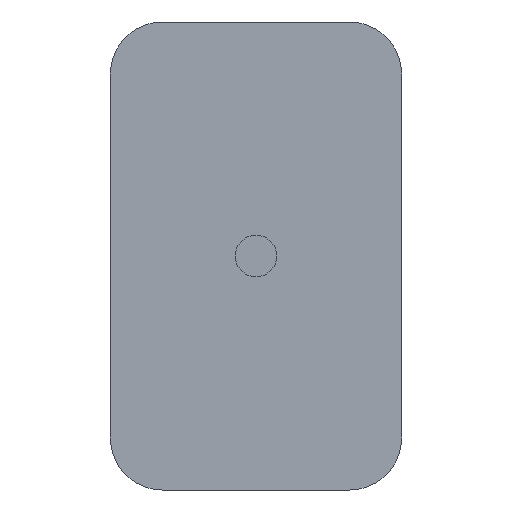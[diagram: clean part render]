
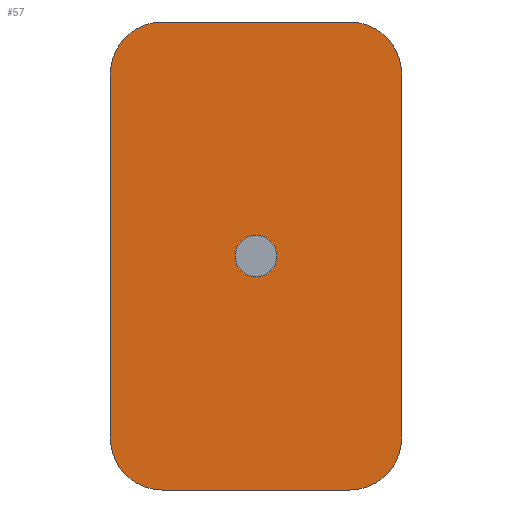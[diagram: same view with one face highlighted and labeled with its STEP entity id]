
A CAD part, left-side view. The second image highlights one B-rep face of the part: STEP entity #57.
In plain terms, the highlighted planar face has unit normal (-1, 0, 0).
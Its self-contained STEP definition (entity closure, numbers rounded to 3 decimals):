
#6 = CARTESIAN_POINT ( 'NONE',  ( -48.5, 5., -17.5 ) ) ;
#21 = DIRECTION ( 'NONE',  ( 0., 0., -1. ) ) ;
#39 = ORIENTED_EDGE ( 'NONE', *, *, #98, .T. ) ;
#42 = VERTEX_POINT ( 'NONE', #463 ) ;
#45 = EDGE_CURVE ( 'NONE', #449, #502, #160, .T. ) ;
#48 = DIRECTION ( 'NONE',  ( -1., 0., 0. ) ) ;
#57 = ADVANCED_FACE ( 'NONE', ( #403, #479 ), #234, .F. ) ;
#65 = EDGE_CURVE ( 'NONE', #141, #199, #255, .T. ) ;
#67 = VECTOR ( 'NONE', #333, 1000. ) ;
#69 = EDGE_CURVE ( 'NONE', #42, #449, #180, .T. ) ;
#82 = ORIENTED_EDGE ( 'NONE', *, *, #271, .T. ) ;
#83 = CARTESIAN_POINT ( 'NONE',  ( -48.5, 0., -22.5 ) ) ;
#95 = CARTESIAN_POINT ( 'NONE',  ( -48.5, 14., 0. ) ) ;
#96 = CARTESIAN_POINT ( 'NONE',  ( -48.5, 5., 22.5 ) ) ;
#97 = LINE ( 'NONE', #259, #334 ) ;
#98 = EDGE_CURVE ( 'NONE', #199, #141, #335, .T. ) ;
#110 = AXIS2_PLACEMENT_3D ( 'NONE', #355, #277, #349 ) ;
#117 = CARTESIAN_POINT ( 'NONE',  ( -48.5, 0., -17.5 ) ) ;
#120 = CIRCLE ( 'NONE', #482, 5. ) ;
#127 = VERTEX_POINT ( 'NONE', #197 ) ;
#130 = DIRECTION ( 'NONE',  ( 0., 0., -1. ) ) ;
#135 = DIRECTION ( 'NONE',  ( 1., 0., 0. ) ) ;
#139 = LINE ( 'NONE', #304, #424 ) ;
#141 = VERTEX_POINT ( 'NONE', #400 ) ;
#142 = DIRECTION ( 'NONE',  ( 0., 0., -1. ) ) ;
#147 = EDGE_LOOP ( 'NONE', ( #292, #489, #307, #410, #193, #185, #220, #82 ) ) ;
#148 = VERTEX_POINT ( 'NONE', #96 ) ;
#151 = DIRECTION ( 'NONE',  ( 0., 0., 1. ) ) ;
#158 = CARTESIAN_POINT ( 'NONE',  ( -48.5, 0., 17.5 ) ) ;
#160 = LINE ( 'NONE', #83, #417 ) ;
#163 = EDGE_LOOP ( 'NONE', ( #39, #356 ) ) ;
#180 = CIRCLE ( 'NONE', #345, 5. ) ;
#185 = ORIENTED_EDGE ( 'NONE', *, *, #469, .T. ) ;
#188 = CARTESIAN_POINT ( 'NONE',  ( -48.5, 28., 17.5 ) ) ;
#193 = ORIENTED_EDGE ( 'NONE', *, *, #364, .F. ) ;
#197 = CARTESIAN_POINT ( 'NONE',  ( -48.5, 28., -17.5 ) ) ;
#199 = VERTEX_POINT ( 'NONE', #435 ) ;
#210 = AXIS2_PLACEMENT_3D ( 'NONE', #95, #135, #142 ) ;
#215 = CARTESIAN_POINT ( 'NONE',  ( -48.5, 23., -22.5 ) ) ;
#218 = VERTEX_POINT ( 'NONE', #366 ) ;
#220 = ORIENTED_EDGE ( 'NONE', *, *, #329, .F. ) ;
#221 = AXIS2_PLACEMENT_3D ( 'NONE', #497, #341, #305 ) ;
#234 = PLANE ( 'NONE',  #110 ) ;
#254 = CIRCLE ( 'NONE', #221, 5. ) ;
#255 = CIRCLE ( 'NONE', #265, 2. ) ;
#256 = CARTESIAN_POINT ( 'NONE',  ( -48.5, 23., -17.5 ) ) ;
#259 = CARTESIAN_POINT ( 'NONE',  ( -48.5, 28., -22.5 ) ) ;
#263 = CARTESIAN_POINT ( 'NONE',  ( -48.5, 5., 17.5 ) ) ;
#264 = VERTEX_POINT ( 'NONE', #215 ) ;
#265 = AXIS2_PLACEMENT_3D ( 'NONE', #313, #386, #130 ) ;
#271 = EDGE_CURVE ( 'NONE', #127, #264, #120, .T. ) ;
#272 = CIRCLE ( 'NONE', #466, 5. ) ;
#277 = DIRECTION ( 'NONE',  ( 1., 0., 0. ) ) ;
#290 = LINE ( 'NONE', #293, #67 ) ;
#292 = ORIENTED_EDGE ( 'NONE', *, *, #442, .T. ) ;
#293 = CARTESIAN_POINT ( 'NONE',  ( -48.5, 28., 22.5 ) ) ;
#302 = DIRECTION ( 'NONE',  ( -1., 0., 0. ) ) ;
#304 = CARTESIAN_POINT ( 'NONE',  ( -48.5, 28., -22.5 ) ) ;
#305 = DIRECTION ( 'NONE',  ( 0., 0., -1. ) ) ;
#307 = ORIENTED_EDGE ( 'NONE', *, *, #45, .T. ) ;
#313 = CARTESIAN_POINT ( 'NONE',  ( -48.5, 14., 0. ) ) ;
#316 = DIRECTION ( 'NONE',  ( 0., 0., -1. ) ) ;
#329 = EDGE_CURVE ( 'NONE', #127, #445, #97, .T. ) ;
#333 = DIRECTION ( 'NONE',  ( 0., -1., 0. ) ) ;
#334 = VECTOR ( 'NONE', #151, 1000. ) ;
#335 = CIRCLE ( 'NONE', #210, 2. ) ;
#341 = DIRECTION ( 'NONE',  ( -1., 0., 0. ) ) ;
#345 = AXIS2_PLACEMENT_3D ( 'NONE', #6, #48, #316 ) ;
#349 = DIRECTION ( 'NONE',  ( 0., 0., -1. ) ) ;
#350 = DIRECTION ( 'NONE',  ( 0., 0., 1. ) ) ;
#355 = CARTESIAN_POINT ( 'NONE',  ( -48.5, 28., -22.5 ) ) ;
#356 = ORIENTED_EDGE ( 'NONE', *, *, #65, .T. ) ;
#364 = EDGE_CURVE ( 'NONE', #218, #148, #290, .T. ) ;
#366 = CARTESIAN_POINT ( 'NONE',  ( -48.5, 23., 22.5 ) ) ;
#370 = DIRECTION ( 'NONE',  ( -1., 0., 0. ) ) ;
#386 = DIRECTION ( 'NONE',  ( 1., 0., 0. ) ) ;
#400 = CARTESIAN_POINT ( 'NONE',  ( -48.5, 14., -2. ) ) ;
#403 = FACE_BOUND ( 'NONE', #163, .T. ) ;
#410 = ORIENTED_EDGE ( 'NONE', *, *, #484, .T. ) ;
#417 = VECTOR ( 'NONE', #350, 1000. ) ;
#424 = VECTOR ( 'NONE', #457, 1000. ) ;
#435 = CARTESIAN_POINT ( 'NONE',  ( -48.5, 14., 2. ) ) ;
#442 = EDGE_CURVE ( 'NONE', #264, #42, #139, .T. ) ;
#445 = VERTEX_POINT ( 'NONE', #188 ) ;
#448 = DIRECTION ( 'NONE',  ( 0., 0., -1. ) ) ;
#449 = VERTEX_POINT ( 'NONE', #117 ) ;
#457 = DIRECTION ( 'NONE',  ( 0., -1., 0. ) ) ;
#463 = CARTESIAN_POINT ( 'NONE',  ( -48.5, 5., -22.5 ) ) ;
#466 = AXIS2_PLACEMENT_3D ( 'NONE', #263, #302, #448 ) ;
#469 = EDGE_CURVE ( 'NONE', #218, #445, #254, .T. ) ;
#479 = FACE_OUTER_BOUND ( 'NONE', #147, .T. ) ;
#482 = AXIS2_PLACEMENT_3D ( 'NONE', #256, #370, #21 ) ;
#484 = EDGE_CURVE ( 'NONE', #502, #148, #272, .T. ) ;
#489 = ORIENTED_EDGE ( 'NONE', *, *, #69, .T. ) ;
#497 = CARTESIAN_POINT ( 'NONE',  ( -48.5, 23., 17.5 ) ) ;
#502 = VERTEX_POINT ( 'NONE', #158 ) ;
